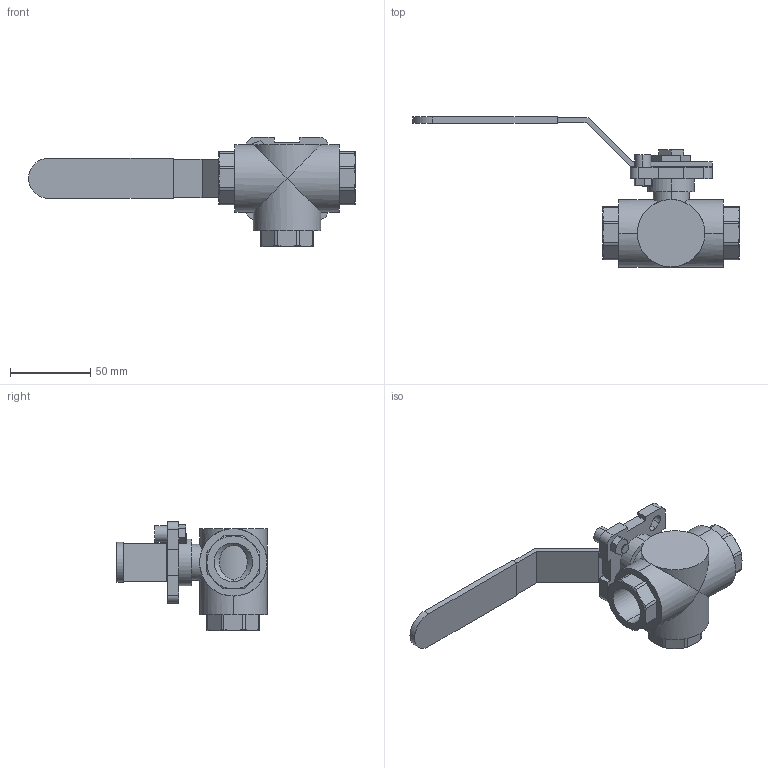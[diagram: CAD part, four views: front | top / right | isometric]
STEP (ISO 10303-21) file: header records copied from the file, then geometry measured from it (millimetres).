
FILE_DESCRIPTION (( 'STEP AP203' ), '1' );
FILE_NAME ('04.622I020IFVPB0.STEP', '2018-10-05T12:46:22', ( '' ), ( '' ), 'SwSTEP 2.0', 'SolidWorks 2014', '' );
FILE_SCHEMA (( 'CONFIG_CONTROL_DESIGN' ));
Length unit declared in the file: millimetre
Products named in the file (1): 04.622I020IFVPB0
Bounding box: 203.5 x 93.5 x 68 mm (x, y, z)
Volume: 154492.6 mm3; surface area: 40921.6 mm2
Topology: 1 solids, 1 shells, 199 faces, 519 edges, 331 vertices
Faces by surface type: plane 103, cylinder 66, cone 30
Entity records: 6668 total; most frequent: CARTESIAN_POINT 1698, ORIENTED_EDGE 1038, DIRECTION 1001, EDGE_CURVE 519, AXIS2_PLACEMENT_3D 350, VERTEX_POINT 331, VECTOR 301, LINE 301
